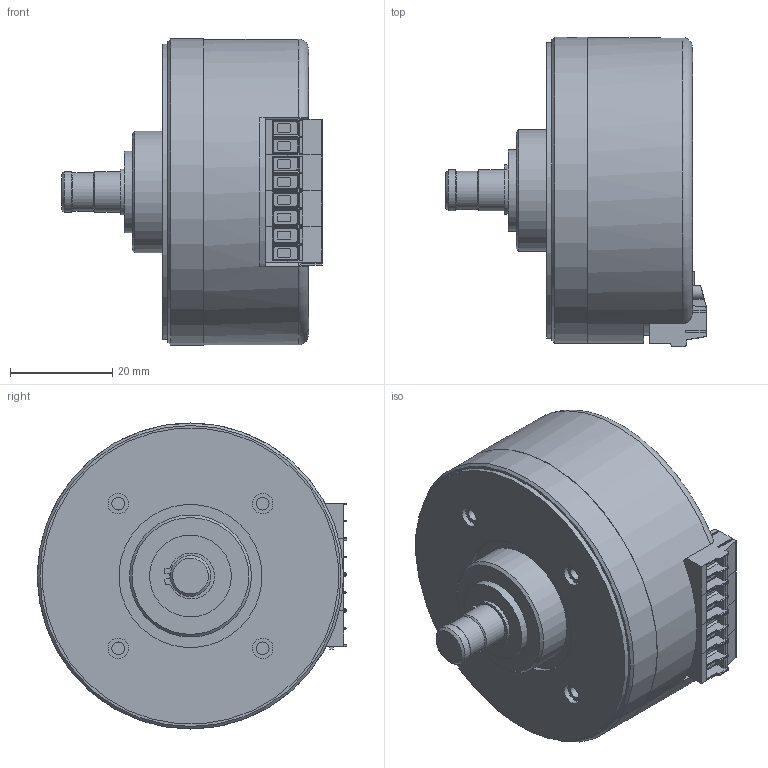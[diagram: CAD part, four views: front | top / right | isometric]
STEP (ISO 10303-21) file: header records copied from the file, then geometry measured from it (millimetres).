
FILE_DESCRIPTION((''),'2;1');
FILE_NAME('C:\Dokumente und Einstellungen\CAD\Desktop\9100.00.017C_MR190_Handy-Pulser.stp','2013-10-22T08:53:15',('CAD'),(''),'Autodesk Inventor 2011','Autodesk Inventor 2011','');
FILE_SCHEMA(('AUTOMOTIVE_DESIGN { 1 0 10303 214 1 1 1 1 }'));
Length unit declared in the file: millimetre
Products named in the file (19): 9100.00; 6099.25; 0408.04.005_Kugellager_d22x8x7mm; 0343.01; 0311.10.024_Kunststoffscheibe_D16x8.4x1; 0311.10; 0306.06.034_Freedrive_M3x6; 0305.13.010_Senk-shr.-M3x6; 6099.24.048_Zylinderstift_d1; ISO 4029  M3 x 3; 6099.22.213_Druckfeder_d2x4; 0312.10; Klemme_pt_1.5-2-pvh-3
Assembly tree (28 placements, depth 2):
  9100.00
    6099.25
    0408.04.005_Kugellager_d22x8x7mm
    6099.25
    6099.25
    6099.25
    0343.01
    6099.25
    6099.25
    0311.10.024_Kunststoffscheibe_D16x8.4x1
    0311.10  x4
    0306.06.034_Freedrive_M3x6  x2
    0311.10  x2
    0305.13.010_Senk-shr.-M3x6  x2
    6099.24.048_Zylinderstift_d1
    ISO 4029  M3 x 3
    6099.22.213_Druckfeder_d2x4
    0312.10  x2
    Klemme_pt_1.5-2-pvh-3  x4
Bounding box: 51 x 60.5 x 59.9 mm (x, y, z)
Volume: 39272.3 mm3; surface area: 43118.8 mm2
Topology: 28 solids, 28 shells, 1896 faces, 5110 edges, 3337 vertices
Faces by surface type: plane 1176, cylinder 533, cone 123, torus 44, bspline 12, sphere 8
Full cylindrical faces by diameter (mm): 0.457 x4, 1 x8, 1.3 x16, 1.5 x17, 2.013 x5, 2.459 x11, 2.5 x4, 2.9 x8, 3 x11, 3.5 x2, 4 x5, 5.5 x2, 5.6 x2, 6 x3, 6.3 x1, 7.5 x2, 8 x6, 8.4 x1, 8.5 x1, 9.55 x1, 12.4 x1, 12.48 x2, 12.75 x1, 13 x1, 14 x1, 16 x1, 17.52 x2, 22 x2, 23.85 x1, 25.5 x1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
Entity records: 35277 total; most frequent: CARTESIAN_POINT 8103, DIRECTION 5460, ORIENTED_EDGE 5188, EDGE_CURVE 2594, AXIS2_PLACEMENT_3D 1902, VERTEX_POINT 1780, VECTOR 1656, LINE 1656
